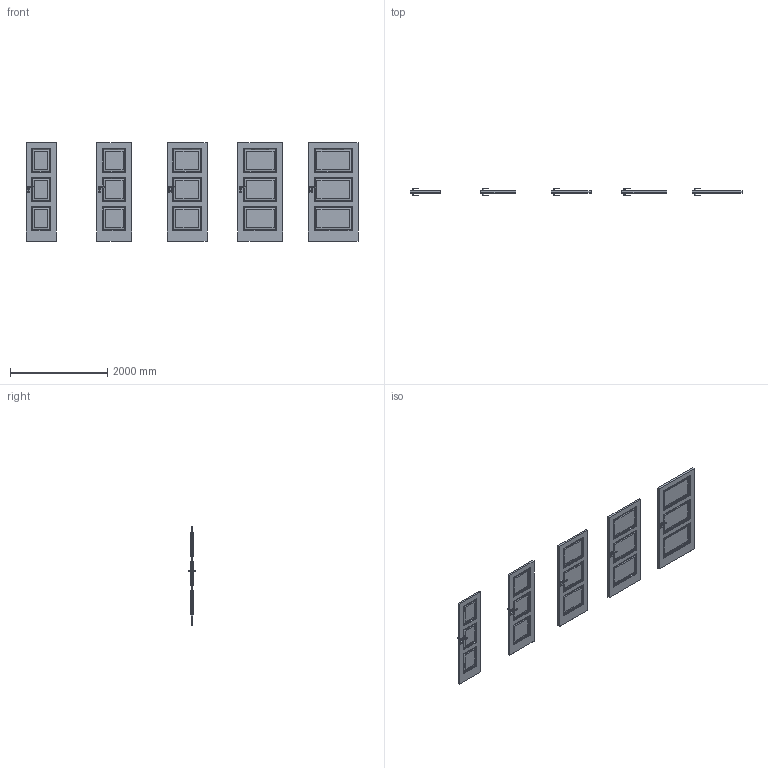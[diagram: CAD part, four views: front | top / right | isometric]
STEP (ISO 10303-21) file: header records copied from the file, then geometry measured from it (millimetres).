
FILE_DESCRIPTION(/* description */ (''),/* implementation_level */ '2;1');
FILE_NAME(/* name */ '049925_A_2-Skrzydło NOVA model 4.1_ polska norma _PN__ bezprzylgowe..stp',/* time_stamp */ '2024-11-05T14:37:19+01:00',/* author */ (''),/* organization */ (''),/* preprocessor_version */ 'ST-DEVELOPER v16',/* originating_system */ 'SIEMENS PLM Software NX 11.0',/* authorisation */ '');
FILE_SCHEMA (('AUTOMOTIVE_DESIGN { 1 0 10303 214 3 1 1 1 }'));
Products named in the file (1): bkni379022B9h5gr
Bounding box: 6818 x 153.13 x 2017 mm (x, y, z)
Volume: 234301504.3 mm3; surface area: 20900029.7 mm2
Topology: 25 solids, 40 shells, 2840 faces, 6997 edges, 4017 vertices
Faces by surface type: plane 1485, bspline 935, cylinder 280, sphere 140
Entity records: 133887 total; most frequent: CARTESIAN_POINT 74602, ORIENTED_EDGE 13714, DIRECTION 9321, EDGE_CURVE 6857, LINE 4069, VECTOR 4069, VERTEX_POINT 4017, EDGE_LOOP 3040
